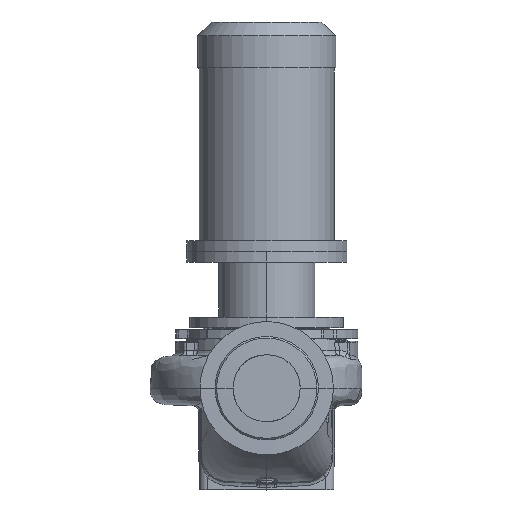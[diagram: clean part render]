
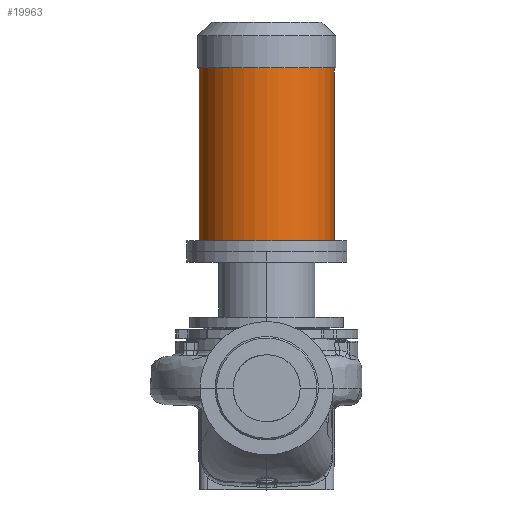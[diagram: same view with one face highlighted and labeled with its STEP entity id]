
A CAD part, top view. The second image highlights one B-rep face of the part: STEP entity #19963.
In plain terms, the highlighted cylindrical face has radius 126.5 mm (diameter 253 mm), a partial arc.
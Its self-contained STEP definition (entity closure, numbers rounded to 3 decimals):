
#413 = DIRECTION ( 'NONE',  ( 0., -1., 0. ) ) ;
#2692 = CARTESIAN_POINT ( 'NONE',  ( -126.5, 600.8, 0. ) ) ;
#5835 = VERTEX_POINT ( 'NONE', #22541 ) ;
#6831 = LINE ( 'NONE', #35082, #41095 ) ;
#8043 = CARTESIAN_POINT ( 'NONE',  ( 0., 256.8, 0. ) ) ;
#8278 = DIRECTION ( 'NONE',  ( -1., 0., 0. ) ) ;
#9279 = ORIENTED_EDGE ( 'NONE', *, *, #20402, .T. ) ;
#9871 = CARTESIAN_POINT ( 'NONE',  ( 126.5, 600.8, 0. ) ) ;
#11619 = VERTEX_POINT ( 'NONE', #15077 ) ;
#11715 = AXIS2_PLACEMENT_3D ( 'NONE', #8043, #45116, #21937 ) ;
#12277 = AXIS2_PLACEMENT_3D ( 'NONE', #26830, #59423, #8278 ) ;
#15038 = VECTOR ( 'NONE', #25766, 1000. ) ;
#15077 = CARTESIAN_POINT ( 'NONE',  ( -126.5, 276.8, 0. ) ) ;
#16810 = EDGE_CURVE ( 'NONE', #45820, #20415, #20538, .T. ) ;
#16987 = CARTESIAN_POINT ( 'NONE',  ( -126.5, 256.8, 0. ) ) ;
#17929 = DIRECTION ( 'NONE',  ( 0., -1., 0. ) ) ;
#18356 = ORIENTED_EDGE ( 'NONE', *, *, #16810, .T. ) ;
#19963 = ADVANCED_FACE ( 'NONE', ( #52781 ), #29564, .T. ) ;
#20402 = EDGE_CURVE ( 'NONE', #20415, #11619, #47046, .T. ) ;
#20415 = VERTEX_POINT ( 'NONE', #2692 ) ;
#20538 = CIRCLE ( 'NONE', #12277, 126.5 ) ;
#21291 = AXIS2_PLACEMENT_3D ( 'NONE', #23534, #413, #32811 ) ;
#21937 = DIRECTION ( 'NONE',  ( -1., 0., 0. ) ) ;
#22541 = CARTESIAN_POINT ( 'NONE',  ( 126.5, 276.8, 0. ) ) ;
#23329 = EDGE_LOOP ( 'NONE', ( #32098, #18356, #9279, #47613 ) ) ;
#23534 = CARTESIAN_POINT ( 'NONE',  ( 0., 276.8, 0. ) ) ;
#25766 = DIRECTION ( 'NONE',  ( 0., -1., 0. ) ) ;
#26830 = CARTESIAN_POINT ( 'NONE',  ( 0., 600.8, 0. ) ) ;
#29564 = CYLINDRICAL_SURFACE ( 'NONE', #11715, 126.5 ) ;
#32098 = ORIENTED_EDGE ( 'NONE', *, *, #33371, .F. ) ;
#32811 = DIRECTION ( 'NONE',  ( -1., 0., 0. ) ) ;
#33371 = EDGE_CURVE ( 'NONE', #45820, #5835, #6831, .T. ) ;
#35082 = CARTESIAN_POINT ( 'NONE',  ( 126.5, 256.8, 0. ) ) ;
#41095 = VECTOR ( 'NONE', #17929, 1000. ) ;
#42882 = CIRCLE ( 'NONE', #21291, 126.5 ) ;
#43234 = EDGE_CURVE ( 'NONE', #5835, #11619, #42882, .T. ) ;
#45116 = DIRECTION ( 'NONE',  ( 0., -1., 0. ) ) ;
#45820 = VERTEX_POINT ( 'NONE', #9871 ) ;
#47046 = LINE ( 'NONE', #16987, #15038 ) ;
#47613 = ORIENTED_EDGE ( 'NONE', *, *, #43234, .F. ) ;
#52781 = FACE_OUTER_BOUND ( 'NONE', #23329, .T. ) ;
#59423 = DIRECTION ( 'NONE',  ( 0., -1., 0. ) ) ;
